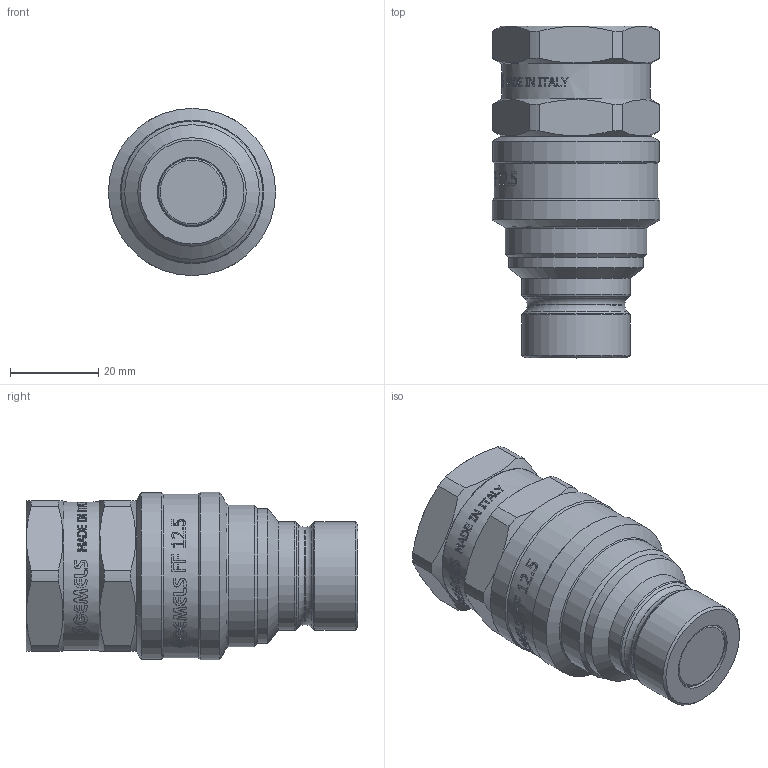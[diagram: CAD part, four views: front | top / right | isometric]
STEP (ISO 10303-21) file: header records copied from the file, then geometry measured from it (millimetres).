
FILE_DESCRIPTION(/* description */ (''),/* implementation_level */ '2;1');
FILE_NAME(/* name */ 'NC05G030003.stp',/* time_stamp */ '2026-03-18T09:32:45+01:00',/* author */ ('matteo.pellegrinelli'),/* organization */ (''),/* preprocessor_version */ 'ST-DEVELOPER v20',/* originating_system */ 'Autodesk Inventor 2024',/* authorisation */ '');
FILE_SCHEMA (('CONFIG_CONTROL_DESIGN'));
Length unit declared in the file: millimetre
Products named in the file (1): Parte2
Bounding box: 37.8 x 75 x 37.8 mm (x, y, z)
Volume: 56935.5 mm3; surface area: 11511 mm2
Topology: 1 solids, 3 shells, 1037 faces, 2956 edges, 1966 vertices
Faces by surface type: bspline 680, plane 259, cylinder 75, cone 16, torus 7
Full cylindrical faces by diameter (mm): 15.65 x1, 18.631 x1, 22 x1, 24.5 x2, 30.45 x1, 32 x2, 32.3 x1, 32.35 x2, 33.5 x1, 37 x1, 37.7 x1, 37.8 x1
Entity records: 44763 total; most frequent: CARTESIAN_POINT 21143, ORIENTED_EDGE 5912, EDGE_CURVE 2956, DIRECTION 2600, VERTEX_POINT 1966, B_SPLINE_CURVE_WITH_KNOTS 1417, LINE 1146, VECTOR 1146
